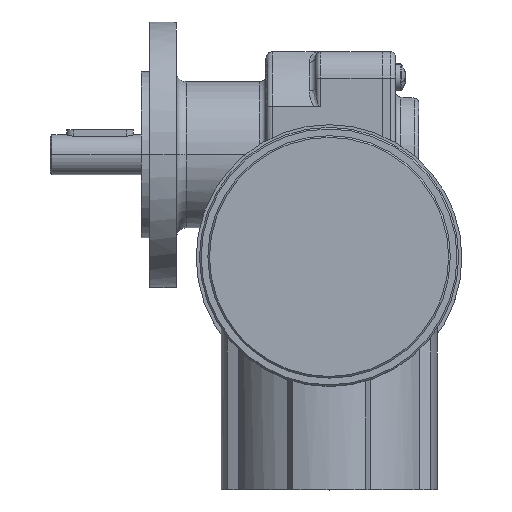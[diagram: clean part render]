
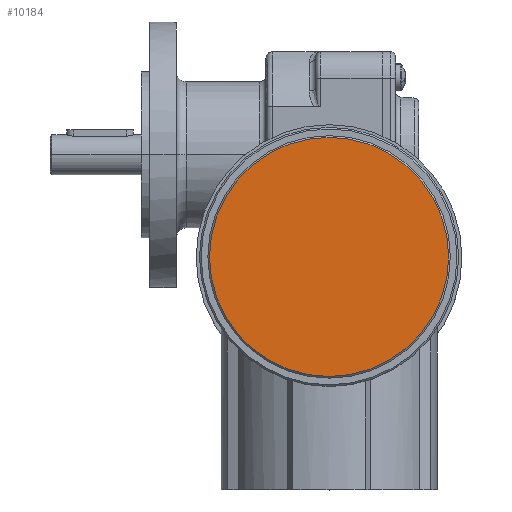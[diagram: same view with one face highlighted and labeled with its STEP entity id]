
A CAD part, top view. The second image highlights one B-rep face of the part: STEP entity #10184.
In plain terms, the highlighted planar face has unit normal (0, 0, 1).
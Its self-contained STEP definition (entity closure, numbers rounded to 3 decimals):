
#356 = ORIENTED_EDGE ( 'NONE', *, *, #6781, .T. ) ;
#2066 = CIRCLE ( 'NONE', #4436, 36. ) ;
#2628 = CARTESIAN_POINT ( 'NONE',  ( -49.116, -9.414, 162. ) ) ;
#3184 = AXIS2_PLACEMENT_3D ( 'NONE', #11670, #7417, #14809 ) ;
#4271 = DIRECTION ( 'NONE',  ( 1., 0., 0. ) ) ;
#4436 = AXIS2_PLACEMENT_3D ( 'NONE', #10044, #12960, #17123 ) ;
#5555 = CIRCLE ( 'NONE', #3184, 36. ) ;
#6196 = AXIS2_PLACEMENT_3D ( 'NONE', #2628, #16752, #4271 ) ;
#6372 = CARTESIAN_POINT ( 'NONE',  ( -13.116, -9.414, 162. ) ) ;
#6737 = VERTEX_POINT ( 'NONE', #17566 ) ;
#6781 = EDGE_CURVE ( 'NONE', #15581, #6737, #5555, .T. ) ;
#7417 = DIRECTION ( 'NONE',  ( 0., 0., 1. ) ) ;
#9138 = ORIENTED_EDGE ( 'NONE', *, *, #12229, .T. ) ;
#10044 = CARTESIAN_POINT ( 'NONE',  ( -49.116, -9.414, 162. ) ) ;
#10184 = ADVANCED_FACE ( 'NONE', ( #16275 ), #11007, .T. ) ;
#10300 = EDGE_LOOP ( 'NONE', ( #9138, #356 ) ) ;
#11007 = PLANE ( 'NONE',  #6196 ) ;
#11670 = CARTESIAN_POINT ( 'NONE',  ( -49.116, -9.414, 162. ) ) ;
#12229 = EDGE_CURVE ( 'NONE', #6737, #15581, #2066, .T. ) ;
#12960 = DIRECTION ( 'NONE',  ( 0., 0., 1. ) ) ;
#14809 = DIRECTION ( 'NONE',  ( 1., 0., 0. ) ) ;
#15581 = VERTEX_POINT ( 'NONE', #6372 ) ;
#16275 = FACE_OUTER_BOUND ( 'NONE', #10300, .T. ) ;
#16752 = DIRECTION ( 'NONE',  ( 0., 0., 1. ) ) ;
#17123 = DIRECTION ( 'NONE',  ( 1., 0., 0. ) ) ;
#17566 = CARTESIAN_POINT ( 'NONE',  ( -85.116, -9.414, 162. ) ) ;
